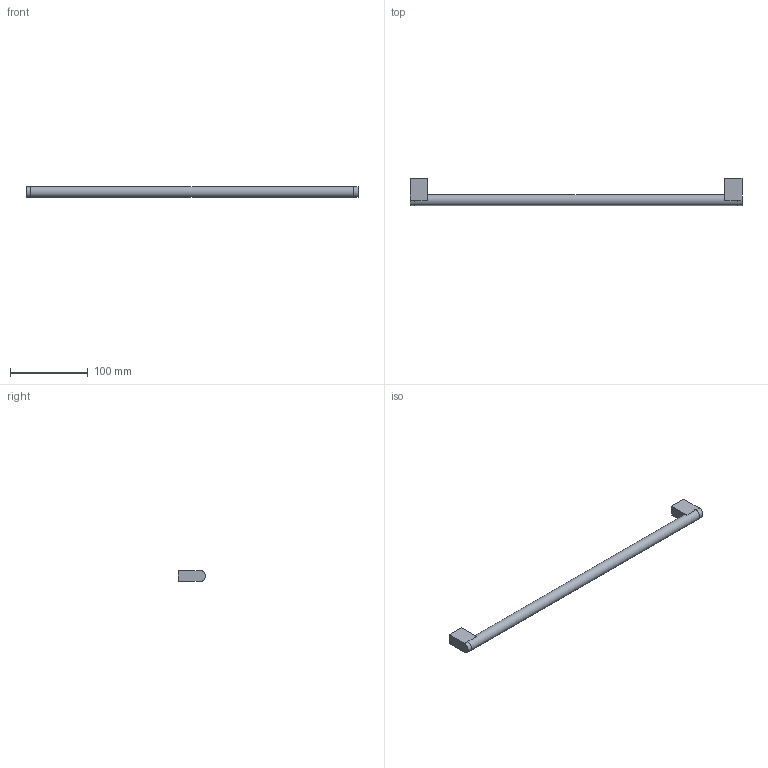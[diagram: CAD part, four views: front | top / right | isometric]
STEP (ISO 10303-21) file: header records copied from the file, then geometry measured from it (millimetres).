
FILE_DESCRIPTION( ( 'STEP AP214' ), ' ' );
FILE_NAME( 'C:/Users/bhog/Desktop/Handle/9070110/9070110.stp', '2018-11-20T10:21:07', ( '' ), ( '' ), ' ', 'PARTsolutions', ' ' );
FILE_SCHEMA( ( 'AUTOMOTIVE_DESIGN { 1 0 10303 214 1 1 1 1 }' ) );
Length unit declared in the file: millimetre
Products named in the file (1): _9070110
Bounding box: 428 x 35 x 14 mm (x, y, z)
Volume: 79501.7 mm3; surface area: 24193.5 mm2
Topology: 1 solids, 1 shells, 21 faces, 41 edges, 26 vertices
Faces by surface type: plane 14, cylinder 7
Full cylindrical faces by diameter (mm): 4 x2, 13.98 x1
Entity records: 706 total; most frequent: DIRECTION 96, CARTESIAN_POINT 86, ORIENTED_EDGE 76, EDGE_CURVE 38, AXIS2_PLACEMENT_3D 36, EDGE_LOOP 28, VERTEX_POINT 26, FACE_OUTER_BOUND 24
